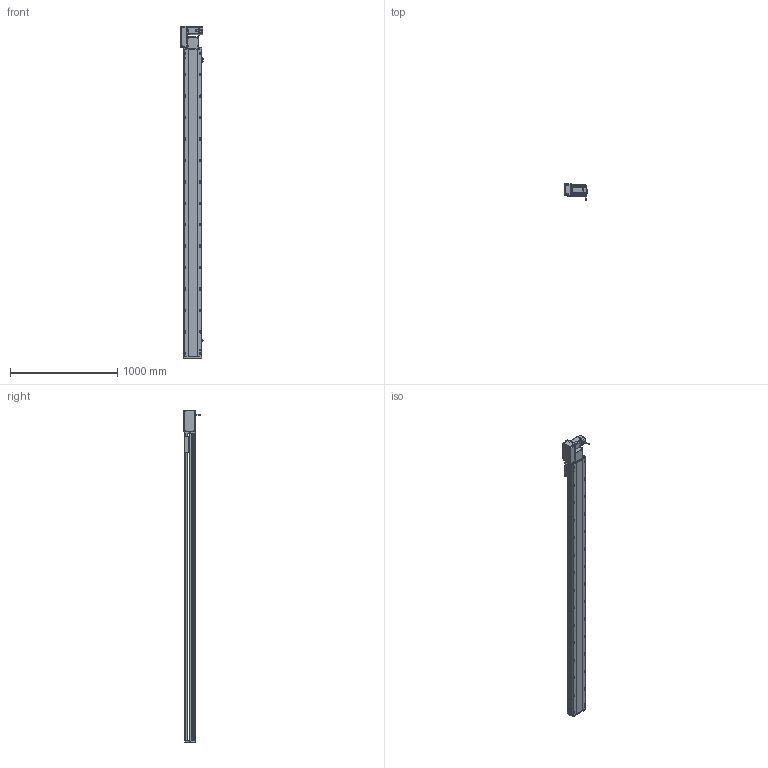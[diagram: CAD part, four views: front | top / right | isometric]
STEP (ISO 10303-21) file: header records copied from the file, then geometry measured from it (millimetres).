
FILE_DESCRIPTION (( 'STEP AP214' ), '1' );
FILE_NAME ('RTB17S-XX-2600-L-M75-C4.STEP', '2025-12-12T00:22:19', ( '' ), ( '' ), 'SwSTEP 2.0', 'SolidWorks 2018', '' );
FILE_SCHEMA (( 'AUTOMOTIVE_DESIGN' ));
Length unit declared in the file: millimetre
Products named in the file (15): RTB17S-XX-2600-L-M75-C4; RTB22S-GY-018P^RTB17S-L-々湍釱蚾饜-750W_RTB17S-XX-XX-L-M75-C4; RTH13-BL-012覜茼え俋离^RTB17S-賑釱_RTB17S-XX-XX-L-M75-C4; RTB22S-GY-017P^RTB17S-L-々湍釱蚾饜-750W_RTB17S-XX-XX-L-M75-C4; EE672^RTB17S-XX-XX-L-M75-C4; RTB17S-L-001-耜醱啣^RTB17S-XX-XX-L-M75-C4; RMP17S-L-014-T20-P75--々湍釱^RTB17S-L-々湍釱蚾饜-750W_RTB17S-XX-XX-L-M75-C4; RTB17-R-011菁釱^RTB17S-XX-XX-L-M75-C4; RTB17S-賑釱^RTB17S-XX-XX-L-M75-C4; RTB17S-L-々湍釱蚾饜-750W^RTB17S-XX-XX-L-M75-C4; RTB22S-GY-005P^RTB17S-L-々湍釱蚾饜-750W_RTB17S-XX-XX-L-M75-C4; 750W萇儂^RTB17S-XX-XX-L-M75-C4; RTB17S-L-004-賑釱^RTB17S-賑釱_RTB17S-XX-XX-L-M75-C4; RTB17S-L-007奻裔^RTB17S-XX-XX-L-M75-C4; RTB22S-GY-008-M75--萇儂啣^RTB17S-L-々湍釱蚾饜-750W_RTB17S-XX-XX-L-M75-C4
Assembly tree (17 placements, depth 3):
  RTB17S-XX-2600-L-M75-C4
    RTB17-R-011菁釱^RTB17S-XX-XX-L-M75-C4
    EE672^RTB17S-XX-XX-L-M75-C4  x3
    RTB17S-L-001-耜醱啣^RTB17S-XX-XX-L-M75-C4
    RTB17S-賑釱^RTB17S-XX-XX-L-M75-C4
      RTB17S-L-004-賑釱^RTB17S-賑釱_RTB17S-XX-XX-L-M75-C4
      RTH13-BL-012覜茼え俋离^RTB17S-賑釱_RTB17S-XX-XX-L-M75-C4
    RTB17S-L-007奻裔^RTB17S-XX-XX-L-M75-C4
    750W萇儂^RTB17S-XX-XX-L-M75-C4
    RTB17S-L-々湍釱蚾饜-750W^RTB17S-XX-XX-L-M75-C4
      RMP17S-L-014-T20-P75--々湍釱^RTB17S-L-々湍釱蚾饜-750W_RTB17S-XX-XX-L-M75-C4
      RTB22S-GY-005P^RTB17S-L-々湍釱蚾饜-750W_RTB17S-XX-XX-L-M75-C4
      RTB22S-GY-017P^RTB17S-L-々湍釱蚾饜-750W_RTB17S-XX-XX-L-M75-C4  x2
      RTB22S-GY-008-M75--萇儂啣^RTB17S-L-々湍釱蚾饜-750W_RTB17S-XX-XX-L-M75-C4
      RTB22S-GY-018P^RTB17S-L-々湍釱蚾饜-750W_RTB17S-XX-XX-L-M75-C4
Bounding box: 210.4 x 152.7 x 3099 mm (x, y, z)
Volume: 22205614.4 mm3; surface area: 4035346.5 mm2
Topology: 17 solids, 17 shells, 2217 faces, 6214 edges, 4022 vertices
Faces by surface type: plane 986, cylinder 815, bspline 294, cone 110, sphere 8, torus 4
Entity records: 64246 total; most frequent: CARTESIAN_POINT 19078, ORIENTED_EDGE 9272, DIRECTION 8582, EDGE_CURVE 4636, AXIS2_PLACEMENT_3D 3042, VERTEX_POINT 3026, VECTOR 2498, LINE 2498
